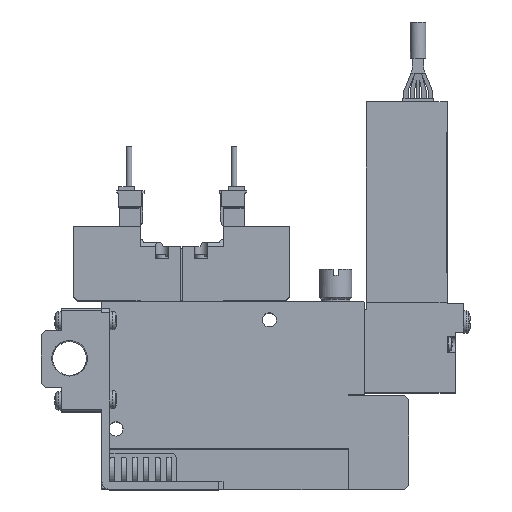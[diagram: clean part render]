
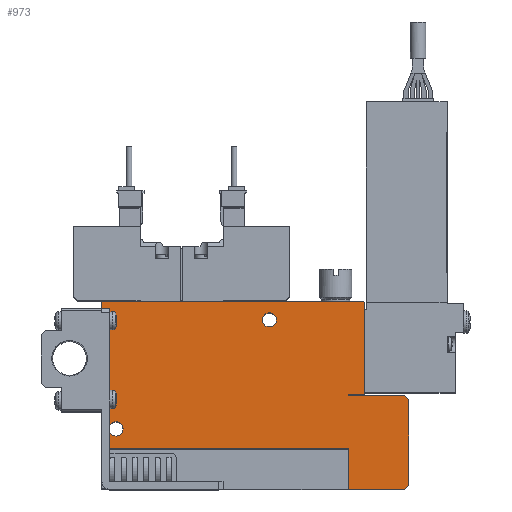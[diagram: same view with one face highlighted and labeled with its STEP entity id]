
A CAD part, top view. The second image highlights one B-rep face of the part: STEP entity #973.
In plain terms, the highlighted planar face has unit normal (0, 0, 1).
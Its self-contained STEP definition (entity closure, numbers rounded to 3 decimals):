
#973=ADVANCED_FACE('',(#2267,#2268,#2269),#2270,.F.);
#2267=FACE_OUTER_BOUND('',#3990,.T.);
#2268=FACE_BOUND('',#3991,.T.);
#2269=FACE_BOUND('',#3992,.T.);
#2270=PLANE('',#3993);
#3990=EDGE_LOOP('',(#8558,#8559,#8560,#8561,#8562,#8563,#8564,#8565,#8566,#8567,#8568,#8569,#8570,#8571));
#3991=EDGE_LOOP('',(#8572));
#3992=EDGE_LOOP('',(#8573));
#3993=AXIS2_PLACEMENT_3D('',#8574,#8575,#8576);
#8558=ORIENTED_EDGE('',*,*,#11858,.T.);
#8559=ORIENTED_EDGE('',*,*,#11678,.F.);
#8560=ORIENTED_EDGE('',*,*,#11798,.F.);
#8561=ORIENTED_EDGE('',*,*,#11939,.T.);
#8562=ORIENTED_EDGE('',*,*,#11880,.T.);
#8563=ORIENTED_EDGE('',*,*,#11984,.T.);
#8564=ORIENTED_EDGE('',*,*,#11855,.T.);
#8565=ORIENTED_EDGE('',*,*,#11979,.T.);
#8566=ORIENTED_EDGE('',*,*,#11986,.T.);
#8567=ORIENTED_EDGE('',*,*,#11988,.T.);
#8568=ORIENTED_EDGE('',*,*,#11995,.T.);
#8569=ORIENTED_EDGE('',*,*,#11818,.T.);
#8570=ORIENTED_EDGE('',*,*,#11654,.T.);
#8571=ORIENTED_EDGE('',*,*,#12004,.T.);
#8572=ORIENTED_EDGE('',*,*,#11945,.F.);
#8573=ORIENTED_EDGE('',*,*,#11989,.F.);
#8574=CARTESIAN_POINT('',(0.0,0.0,5.0));
#8575=DIRECTION('',(0.0,0.0,-1.0));
#8576=DIRECTION('',(0.0,-1.0,0.0));
#11654=EDGE_CURVE('',#14161,#14159,#14162,.T.);
#11678=EDGE_CURVE('',#14206,#14207,#14208,.T.);
#11798=EDGE_CURVE('',#14420,#14206,#14422,.T.);
#11818=EDGE_CURVE('',#14454,#14161,#14455,.T.);
#11855=EDGE_CURVE('',#14513,#14511,#14514,.T.);
#11858=EDGE_CURVE('',#14518,#14207,#14519,.T.);
#11880=EDGE_CURVE('',#14559,#14557,#14560,.T.);
#11939=EDGE_CURVE('',#14420,#14559,#14644,.T.);
#11945=EDGE_CURVE('',#14653,#14653,#14654,.T.);
#11979=EDGE_CURVE('',#14511,#14705,#14707,.T.);
#11984=EDGE_CURVE('',#14557,#14513,#14712,.T.);
#11986=EDGE_CURVE('',#14705,#14713,#14715,.T.);
#11988=EDGE_CURVE('',#14713,#14716,#14718,.T.);
#11989=EDGE_CURVE('',#14719,#14719,#14720,.T.);
#11995=EDGE_CURVE('',#14716,#14454,#14728,.T.);
#12004=EDGE_CURVE('',#14159,#14518,#14739,.T.);
#14159=VERTEX_POINT('',#18298);
#14161=VERTEX_POINT('',#18301);
#14162=LINE('',#18302,#18303);
#14206=VERTEX_POINT('',#18389);
#14207=VERTEX_POINT('',#18390);
#14208=LINE('',#18391,#18392);
#14420=VERTEX_POINT('',#18783);
#14422=LINE('',#18786,#18787);
#14454=VERTEX_POINT('',#18845);
#14455=LINE('',#18846,#18847);
#14511=VERTEX_POINT('',#18932);
#14513=VERTEX_POINT('',#18935);
#14514=LINE('',#18936,#18937);
#14518=VERTEX_POINT('',#18943);
#14519=LINE('',#18944,#18945);
#14557=VERTEX_POINT('',#19001);
#14559=VERTEX_POINT('',#19004);
#14560=LINE('',#19005,#19006);
#14644=LINE('',#19153,#19154);
#14653=VERTEX_POINT('',#19166);
#14654=CIRCLE('',#19167,1.75);
#14705=VERTEX_POINT('',#19275);
#14707=LINE('',#19278,#19279);
#14712=LINE('',#19288,#19289);
#14713=VERTEX_POINT('',#19290);
#14715=LINE('',#19293,#19294);
#14716=VERTEX_POINT('',#19295);
#14718=LINE('',#19298,#19299);
#14719=VERTEX_POINT('',#19300);
#14720=CIRCLE('',#19301,1.75);
#14728=LINE('',#19314,#19315);
#14739=LINE('',#19333,#19334);
#18298=CARTESIAN_POINT('',(0.2,46.6,5.0));
#18301=CARTESIAN_POINT('',(64.8,46.6,5.0));
#18302=CARTESIAN_POINT('',(64.8,46.6,5.0));
#18303=VECTOR('',#22888,1.0);
#18389=CARTESIAN_POINT('',(61.1,10.1,5.0));
#18390=CARTESIAN_POINT('',(0.0,10.1,5.0));
#18391=CARTESIAN_POINT('',(61.1,10.1,5.0));
#18392=VECTOR('',#22921,1.0);
#18783=CARTESIAN_POINT('',(61.1,0.0,5.0));
#18786=CARTESIAN_POINT('',(61.1,0.0,5.0));
#18787=VECTOR('',#23094,1.0);
#18845=CARTESIAN_POINT('',(65.0,46.4,5.0));
#18846=CARTESIAN_POINT('',(65.0,46.4,5.0));
#18847=VECTOR('',#23117,1.0);
#18932=CARTESIAN_POINT('',(75.0,23.25,5.0));
#18935=CARTESIAN_POINT('',(76.0,22.25,5.0));
#18936=CARTESIAN_POINT('',(76.0,22.25,5.0));
#18937=VECTOR('',#23166,1.0);
#18943=CARTESIAN_POINT('',(0.0,46.4,5.0));
#18944=CARTESIAN_POINT('',(0.0,46.4,5.0));
#18945=VECTOR('',#23169,1.0);
#19001=CARTESIAN_POINT('',(76.0,1.0,5.0));
#19004=CARTESIAN_POINT('',(75.0,0.0,5.0));
#19005=CARTESIAN_POINT('',(75.0,0.0,5.0));
#19006=VECTOR('',#23195,1.0);
#19153=CARTESIAN_POINT('',(0.0,0.0,5.0));
#19154=VECTOR('',#23261,1.0);
#19166=CARTESIAN_POINT('',(5.25,15.0,5.0));
#19167=AXIS2_PLACEMENT_3D('',#23271,#23272,#23273);
#19275=CARTESIAN_POINT('',(61.0,23.25,5.0));
#19278=CARTESIAN_POINT('',(75.0,23.25,5.0));
#19279=VECTOR('',#23321,1.0);
#19288=CARTESIAN_POINT('',(76.0,1.0,5.0));
#19289=VECTOR('',#23326,1.0);
#19290=CARTESIAN_POINT('',(61.0,23.5,5.0));
#19293=CARTESIAN_POINT('',(61.0,23.25,5.0));
#19294=VECTOR('',#23328,1.0);
#19295=CARTESIAN_POINT('',(65.0,23.5,5.0));
#19298=CARTESIAN_POINT('',(61.0,23.5,5.0));
#19299=VECTOR('',#23330,1.0);
#19300=CARTESIAN_POINT('',(43.25,42.0,5.0));
#19301=AXIS2_PLACEMENT_3D('',#23331,#23332,#23333);
#19314=CARTESIAN_POINT('',(65.0,23.5,5.0));
#19315=VECTOR('',#23339,1.0);
#19333=CARTESIAN_POINT('',(0.2,46.6,5.0));
#19334=VECTOR('',#23350,1.0);
#22888=DIRECTION('',(-1.0,0.0,0.0));
#22921=DIRECTION('',(-1.0,0.0,0.0));
#23094=DIRECTION('',(0.0,1.0,0.0));
#23117=DIRECTION('',(-0.707,0.707,0.0));
#23166=DIRECTION('',(-0.707,0.707,0.0));
#23169=DIRECTION('',(0.0,-1.0,0.0));
#23195=DIRECTION('',(0.707,0.707,0.0));
#23261=DIRECTION('',(1.0,0.0,0.0));
#23271=CARTESIAN_POINT('',(3.5,15.0,5.0));
#23272=DIRECTION('',(0.0,0.0,1.0));
#23273=DIRECTION('',(1.0,0.0,0.0));
#23321=DIRECTION('',(-1.0,0.0,0.0));
#23326=DIRECTION('',(0.0,1.0,0.0));
#23328=DIRECTION('',(0.0,1.0,0.0));
#23330=DIRECTION('',(1.0,0.,0.0));
#23331=CARTESIAN_POINT('',(41.5,42.0,5.0));
#23332=DIRECTION('',(0.0,0.0,1.0));
#23333=DIRECTION('',(1.0,0.0,0.0));
#23339=DIRECTION('',(0.0,1.0,0.0));
#23350=DIRECTION('',(-0.707,-0.707,0.0));
